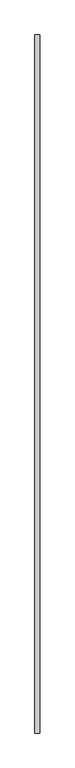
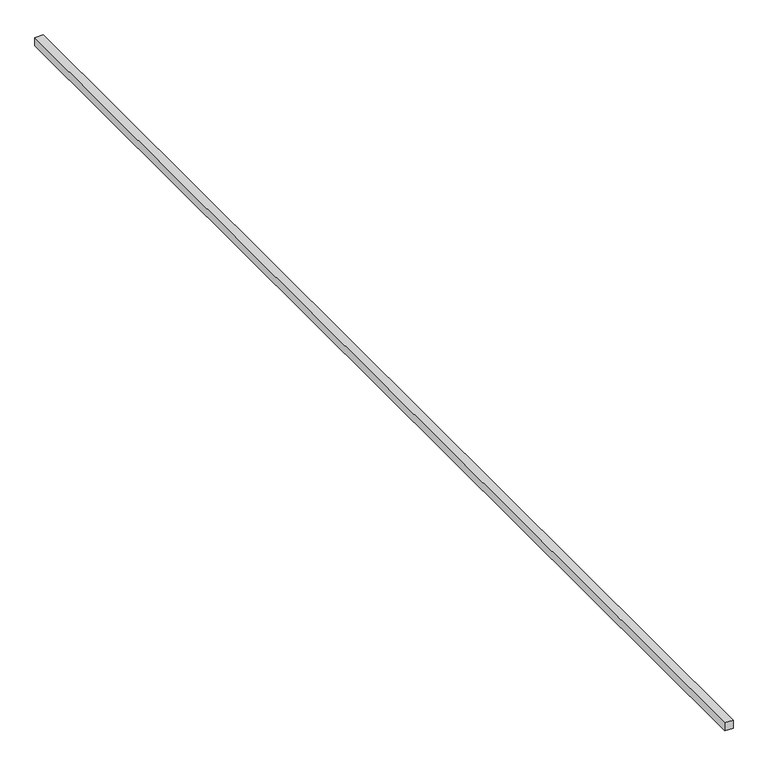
"""IFC4 building model written with IfcOpenShell, lengths in millimetres: proxy geometry, Modelos genéricos 224 : Modelos genéricos 224."""

from ifc_helpers import new_model, si_unit, frame, origin, place, context, project, spatial, polyline, outline, extrude, source, transform, mapped, element, save


def generic_models_e04e582b(model_context):
    return source(origin(), model_context, "Body", "SweptSolid", [
        extrude(outline(polyline([(-12796.5527533, -2326.3761835), (-12796.5527533, 6233.6238165), (-12736.5527533, 6233.6238165), (-12736.5527533, -2326.3761835), (-12796.5527533, -2326.3761835)])), frame((0.0, 0.0, 3050.0), z_axis=(0.0, 0.0, 1.0), x_axis=(1.0, 0.0, 0.0)), (0.0, 0.0, 1.0), 60.0),
    ])


if __name__ == "__main__":
    model = new_model("IFC4")
    model_context = context("Model", 3, world=origin())
    ifc_project = project(units=[si_unit("LENGTHUNIT", "METRE", prefix="MILLI")], contexts=[model_context])
    site = spatial("IfcSite", under=ifc_project)
    building = spatial("IfcBuilding", under=site)
    placement = place(None, origin())
    generic_models_shape = generic_models_e04e582b(model_context)
    element("IfcBuildingElementProxy", 1, Name="Modelos genéricos 224 : Modelos genéricos 224", ObjectType="Modelos genéricos 224 : Modelos genéricos 224", at=placement, inside=building, context=model_context, shape_type="MappedRepresentation", body=[
        mapped(generic_models_shape, transform((0.0, 0.0, 0.0), x_axis=(1.0, 0.0, 0.0), y_axis=(0.0, 1.0, 0.0), z_axis=(0.0, 0.0, 1.0))),
    ])
    save(model, "model.ifc")
